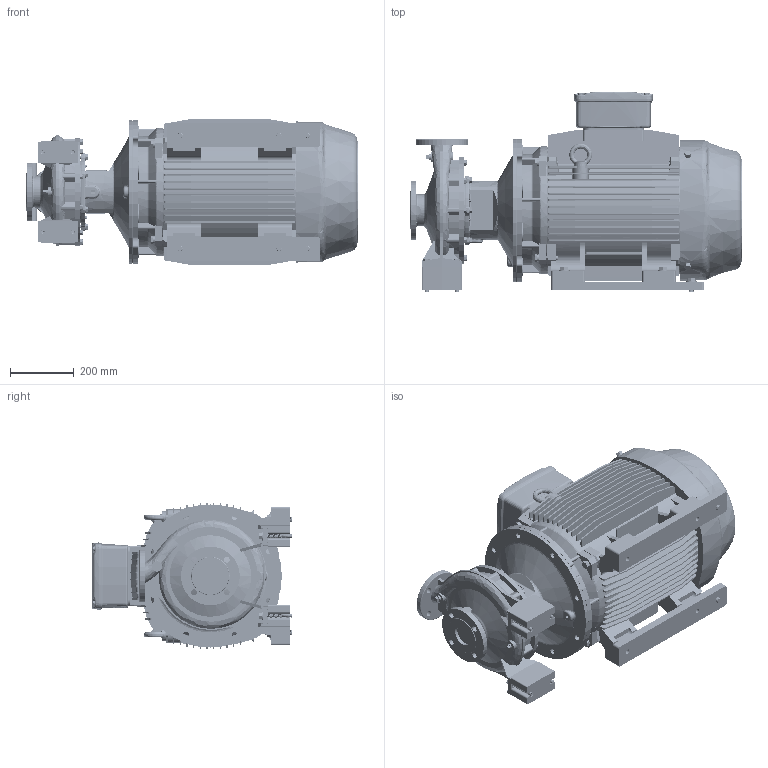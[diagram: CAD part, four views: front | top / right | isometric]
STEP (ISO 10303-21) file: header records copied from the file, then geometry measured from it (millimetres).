
FILE_DESCRIPTION (( 'STEP AP214' ), '1' );
FILE_NAME ('GSD2 50-250_45_(225SM)_W21.STEP', '2026-07-07T04:25:30', ( '' ), ( '' ), 'SwSTEP 2.0', 'SolidWorks 2024', '' );
FILE_SCHEMA (( 'AUTOMOTIVE_DESIGN' ));
Length unit declared in the file: millimetre
Products named in the file (13): Parametric Nut_M12; Parametric bolt and washer_SFT-A359B; CGS11-5311_2_3_4_5_CGS11-5315; GSD2  50-250_45_(225SM)_W21; Parametric Stud Bolt_SFSK-AB311; 50-250-225S_M; Parametric bolt_SFT-A359B; 80x25 -CGSDA-5281 (225) (Offset); 225S_M2P IE3_W21T_B35; Parametric bolt and washer_SFT-A355B; Parametric Flat Washer_M16; Parametric Flat Washer_M12; Parametric bolt_SFT-A353B
Assembly tree (30 placements, depth 3):
  GSD2  50-250_45_(225SM)_W21
    50-250-225S_M
    225S_M2P IE3_W21T_B35
    CGS11-5311_2_3_4_5_CGS11-5315  x4
    Parametric Stud Bolt_SFSK-AB311  x4
    Parametric Flat Washer_M12  x4
    Parametric Nut_M12  x4
    Parametric bolt and washer_SFT-A359B  x4
      Parametric bolt_SFT-A359B
      Parametric Flat Washer_M16
    Parametric bolt and washer_SFT-A355B  x2
      Parametric bolt_SFT-A353B
      Parametric Flat Washer_M16
    80x25 -CGSDA-5281 (225) (Offset)  x2
Bounding box: 1044.5 x 630.46 x 459.72 mm (x, y, z)
Volume: 120089992.8 mm3; surface area: 4506503.5 mm2
Topology: 42 solids, 52 shells, 4598 faces, 12266 edges, 7887 vertices
Faces by surface type: plane 1804, cylinder 1692, cone 546, torus 305, bspline 236, sphere 15
Full cylindrical faces by diameter (mm): 12 x4
Entity records: 171018 total; most frequent: CARTESIAN_POINT 77173, ORIENTED_EDGE 20536, DIRECTION 18705, EDGE_CURVE 10268, AXIS2_PLACEMENT_3D 6877, VERTEX_POINT 6611, LINE 4951, VECTOR 4951
